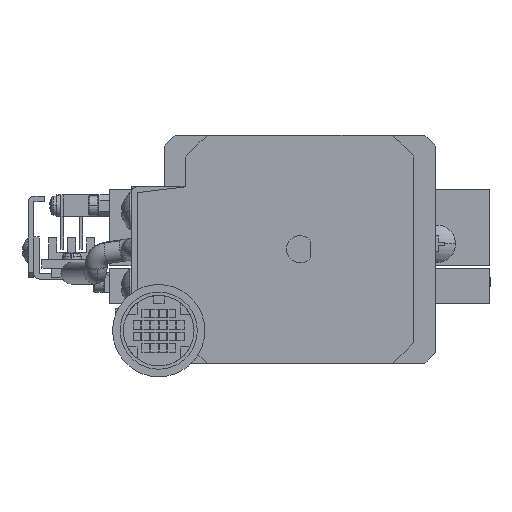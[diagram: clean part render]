
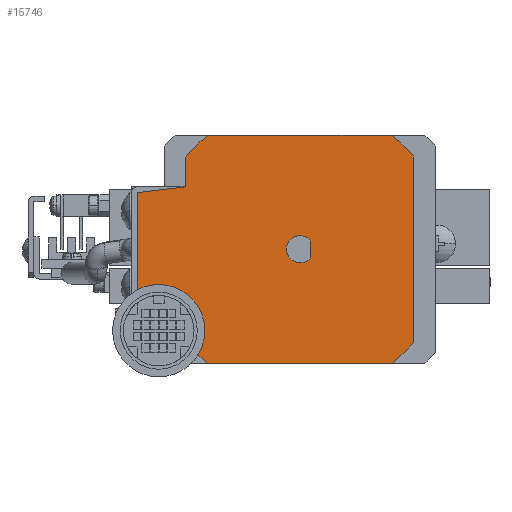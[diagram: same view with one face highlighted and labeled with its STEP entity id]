
A CAD part, left-side view. The second image highlights one B-rep face of the part: STEP entity #15746.
In plain terms, the highlighted planar face has unit normal (-1, 0, 0).
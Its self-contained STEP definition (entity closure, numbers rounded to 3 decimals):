
#403 = CIRCLE ( 'NONE', #19351, 2.5 ) ;
#458 = DIRECTION ( 'NONE',  ( 0., 0., 1. ) ) ;
#656 = LINE ( 'NONE', #59601, #2172 ) ;
#885 = CARTESIAN_POINT ( 'NONE',  ( -359.53, 24.275, -257.221 ) ) ;
#1308 = CARTESIAN_POINT ( 'NONE',  ( -359.53, 55.836, -248.272 ) ) ;
#1513 = DIRECTION ( 'NONE',  ( 0., -0.993, 0.122 ) ) ;
#2172 = VECTOR ( 'NONE', #26657, 1000. ) ;
#3191 = ORIENTED_EDGE ( 'NONE', *, *, #29141, .F. ) ;
#3630 = EDGE_LOOP ( 'NONE', ( #3191, #56954, #15829, #29286, #24278, #21026, #47286, #24365, #50510, #10615, #17761, #46331, #59002, #27614 ) ) ;
#4308 = EDGE_CURVE ( 'NONE', #32531, #41101, #11801, .T. ) ;
#4535 = EDGE_CURVE ( 'NONE', #46892, #35064, #31139, .T. ) ;
#4730 = EDGE_CURVE ( 'NONE', #41101, #25267, #30356, .T. ) ;
#4934 = CARTESIAN_POINT ( 'NONE',  ( -359.53, 43.246, -237.721 ) ) ;
#7147 = EDGE_CURVE ( 'NONE', #12185, #56303, #10764, .T. ) ;
#7270 = CARTESIAN_POINT ( 'NONE',  ( -359.53, 55.775, -248.768 ) ) ;
#8744 = LINE ( 'NONE', #50653, #33351 ) ;
#9823 = DIRECTION ( 'NONE',  ( 0., -1., 0. ) ) ;
#10352 = DIRECTION ( 'NONE',  ( 0., 0.122, -0.993 ) ) ;
#10403 = CARTESIAN_POINT ( 'NONE',  ( -359.53, 47.275, -241.75 ) ) ;
#10615 = ORIENTED_EDGE ( 'NONE', *, *, #30981, .F. ) ;
#10764 = LINE ( 'NONE', #21269, #21243 ) ;
#10963 = VECTOR ( 'NONE', #1513, 1000. ) ;
#11071 = CARTESIAN_POINT ( 'NONE',  ( -359.53, 80.327, -308.272 ) ) ;
#11801 = CIRCLE ( 'NONE', #58754, 0.5 ) ;
#12185 = VERTEX_POINT ( 'NONE', #52330 ) ;
#12207 = LINE ( 'NONE', #57139, #51699 ) ;
#13532 = AXIS2_PLACEMENT_3D ( 'NONE', #22005, #27212, #50932 ) ;
#14241 = EDGE_CURVE ( 'NONE', #35064, #22659, #12207, .T. ) ;
#14662 = VERTEX_POINT ( 'NONE', #43438 ) ;
#15177 = CIRCLE ( 'NONE', #13532, 27. ) ;
#15746 = ADVANCED_FACE ( 'NONE', ( #52281, #55321 ), #16494, .F. ) ;
#15829 = ORIENTED_EDGE ( 'NONE', *, *, #61469, .F. ) ;
#16494 = PLANE ( 'NONE',  #39867 ) ;
#16698 = DIRECTION ( 'NONE',  ( 1., 0., 0. ) ) ;
#17124 = EDGE_LOOP ( 'NONE', ( #42872, #59129 ) ) ;
#17333 = DIRECTION ( 'NONE',  ( 0., -0.778, -0.629 ) ) ;
#17761 = ORIENTED_EDGE ( 'NONE', *, *, #24512, .F. ) ;
#18823 = EDGE_CURVE ( 'NONE', #53471, #55875, #8744, .T. ) ;
#19351 = AXIS2_PLACEMENT_3D ( 'NONE', #22885, #28502, #57013 ) ;
#21026 = ORIENTED_EDGE ( 'NONE', *, *, #50176, .F. ) ;
#21243 = VECTOR ( 'NONE', #44773, 1000. ) ;
#21269 = CARTESIAN_POINT ( 'NONE',  ( -359.53, 24.275, -260.221 ) ) ;
#22005 = CARTESIAN_POINT ( 'NONE',  ( -359.53, 26.275, -258.721 ) ) ;
#22034 = AXIS2_PLACEMENT_3D ( 'NONE', #24129, #38834, #10352 ) ;
#22162 = DIRECTION ( 'NONE',  ( 0., 1., 0. ) ) ;
#22659 = VERTEX_POINT ( 'NONE', #54365 ) ;
#22885 = CARTESIAN_POINT ( 'NONE',  ( -359.53, 26.275, -258.721 ) ) ;
#23375 = VECTOR ( 'NONE', #56577, 1000. ) ;
#23445 = VERTEX_POINT ( 'NONE', #34882 ) ;
#23724 = DIRECTION ( 'NONE',  ( 0., 0.778, 0.629 ) ) ;
#24129 = CARTESIAN_POINT ( 'NONE',  ( -359.53, 55.775, -268.673 ) ) ;
#24278 = ORIENTED_EDGE ( 'NONE', *, *, #4535, .F. ) ;
#24365 = ORIENTED_EDGE ( 'NONE', *, *, #4308, .F. ) ;
#24464 = CARTESIAN_POINT ( 'NONE',  ( -359.53, 55.836, -269.17 ) ) ;
#24512 = EDGE_CURVE ( 'NONE', #23445, #35491, #59202, .T. ) ;
#25042 = LINE ( 'NONE', #43057, #39918 ) ;
#25267 = VERTEX_POINT ( 'NONE', #42949 ) ;
#26280 = CIRCLE ( 'NONE', #46890, 27. ) ;
#26657 = DIRECTION ( 'NONE',  ( 0., 0., 1. ) ) ;
#27212 = DIRECTION ( 'NONE',  ( 1., 0., 0. ) ) ;
#27614 = ORIENTED_EDGE ( 'NONE', *, *, #18823, .F. ) ;
#27899 = DIRECTION ( 'NONE',  ( 1., 0., 0. ) ) ;
#28220 = DIRECTION ( 'NONE',  ( 0., 0.629, -0.778 ) ) ;
#28502 = DIRECTION ( 'NONE',  ( 1., 0., 0. ) ) ;
#28728 = CARTESIAN_POINT ( 'NONE',  ( -359.53, 26.275, -258.721 ) ) ;
#28740 = VECTOR ( 'NONE', #458, 1000. ) ;
#29141 = EDGE_CURVE ( 'NONE', #37184, #53471, #26280, .T. ) ;
#29193 = CARTESIAN_POINT ( 'NONE',  ( -359.53, 9.305, -279.721 ) ) ;
#29286 = ORIENTED_EDGE ( 'NONE', *, *, #14241, .F. ) ;
#29890 = EDGE_CURVE ( 'NONE', #55875, #14662, #49988, .T. ) ;
#30356 = LINE ( 'NONE', #1308, #10963 ) ;
#30657 = DIRECTION ( 'NONE',  ( 0., 1., 0. ) ) ;
#30981 = EDGE_CURVE ( 'NONE', #35491, #46240, #43940, .T. ) ;
#31139 = CIRCLE ( 'NONE', #39306, 27. ) ;
#32531 = VERTEX_POINT ( 'NONE', #61590 ) ;
#32674 = VECTOR ( 'NONE', #54437, 1000. ) ;
#33143 = AXIS2_PLACEMENT_3D ( 'NONE', #56740, #57367, #28220 ) ;
#33351 = VECTOR ( 'NONE', #22162, 1000. ) ;
#33911 = EDGE_CURVE ( 'NONE', #46240, #32531, #45843, .T. ) ;
#34882 = CARTESIAN_POINT ( 'NONE',  ( -359.53, 47.275, -270.221 ) ) ;
#35064 = VERTEX_POINT ( 'NONE', #4934 ) ;
#35491 = VERTEX_POINT ( 'NONE', #24464 ) ;
#37129 = CARTESIAN_POINT ( 'NONE',  ( -359.53, 56.275, -268.673 ) ) ;
#37184 = VERTEX_POINT ( 'NONE', #52748 ) ;
#38834 = DIRECTION ( 'NONE',  ( 1., 0., 0. ) ) ;
#39159 = CARTESIAN_POINT ( 'NONE',  ( -359.53, 26.275, -258.721 ) ) ;
#39306 = AXIS2_PLACEMENT_3D ( 'NONE', #28728, #27899, #23724 ) ;
#39867 = AXIS2_PLACEMENT_3D ( 'NONE', #11071, #16698, #54609 ) ;
#39918 = VECTOR ( 'NONE', #47230, 1000. ) ;
#40852 = CARTESIAN_POINT ( 'NONE',  ( -359.53, 55.836, -248.272 ) ) ;
#41101 = VERTEX_POINT ( 'NONE', #40852 ) ;
#42872 = ORIENTED_EDGE ( 'NONE', *, *, #50947, .T. ) ;
#42949 = CARTESIAN_POINT ( 'NONE',  ( -359.53, 47.275, -247.221 ) ) ;
#43057 = CARTESIAN_POINT ( 'NONE',  ( -359.53, 5.275, -241.75 ) ) ;
#43438 = CARTESIAN_POINT ( 'NONE',  ( -359.53, 47.275, -275.691 ) ) ;
#43940 = CIRCLE ( 'NONE', #22034, 0.5 ) ;
#43971 = DIRECTION ( 'NONE',  ( 1., 0., 0. ) ) ;
#44773 = DIRECTION ( 'NONE',  ( 0., 0., 1. ) ) ;
#45843 = LINE ( 'NONE', #48012, #28740 ) ;
#46240 = VERTEX_POINT ( 'NONE', #37129 ) ;
#46331 = ORIENTED_EDGE ( 'NONE', *, *, #54330, .F. ) ;
#46370 = CARTESIAN_POINT ( 'NONE',  ( -359.53, 5.275, -241.75 ) ) ;
#46743 = CARTESIAN_POINT ( 'NONE',  ( -359.53, 47.275, -270.221 ) ) ;
#46890 = AXIS2_PLACEMENT_3D ( 'NONE', #39159, #43971, #17333 ) ;
#46892 = VERTEX_POINT ( 'NONE', #10403 ) ;
#47230 = DIRECTION ( 'NONE',  ( 0., 0., -1. ) ) ;
#47286 = ORIENTED_EDGE ( 'NONE', *, *, #4730, .F. ) ;
#48012 = CARTESIAN_POINT ( 'NONE',  ( -359.53, 56.275, -268.673 ) ) ;
#49774 = DIRECTION ( 'NONE',  ( 1., 0., 0. ) ) ;
#49988 = CIRCLE ( 'NONE', #33143, 27. ) ;
#50176 = EDGE_CURVE ( 'NONE', #25267, #46892, #61009, .T. ) ;
#50510 = ORIENTED_EDGE ( 'NONE', *, *, #33911, .F. ) ;
#50653 = CARTESIAN_POINT ( 'NONE',  ( -359.53, 9.305, -279.721 ) ) ;
#50932 = DIRECTION ( 'NONE',  ( 0., -0.629, 0.778 ) ) ;
#50947 = EDGE_CURVE ( 'NONE', #12185, #56303, #403, .T. ) ;
#51699 = VECTOR ( 'NONE', #9823, 1000. ) ;
#52281 = FACE_OUTER_BOUND ( 'NONE', #3630, .T. ) ;
#52330 = CARTESIAN_POINT ( 'NONE',  ( -359.53, 24.275, -260.221 ) ) ;
#52748 = CARTESIAN_POINT ( 'NONE',  ( -359.53, 5.275, -275.691 ) ) ;
#53471 = VERTEX_POINT ( 'NONE', #29193 ) ;
#54330 = EDGE_CURVE ( 'NONE', #14662, #23445, #656, .T. ) ;
#54365 = CARTESIAN_POINT ( 'NONE',  ( -359.53, 9.305, -237.721 ) ) ;
#54437 = DIRECTION ( 'NONE',  ( 0., 0., 1. ) ) ;
#54609 = DIRECTION ( 'NONE',  ( 0., 0., 1. ) ) ;
#54645 = CARTESIAN_POINT ( 'NONE',  ( -359.53, 47.275, -247.221 ) ) ;
#55321 = FACE_BOUND ( 'NONE', #17124, .T. ) ;
#55875 = VERTEX_POINT ( 'NONE', #58564 ) ;
#56303 = VERTEX_POINT ( 'NONE', #885 ) ;
#56577 = DIRECTION ( 'NONE',  ( 0., 0.993, 0.122 ) ) ;
#56740 = CARTESIAN_POINT ( 'NONE',  ( -359.53, 26.275, -258.721 ) ) ;
#56954 = ORIENTED_EDGE ( 'NONE', *, *, #59571, .F. ) ;
#57013 = DIRECTION ( 'NONE',  ( 0., -0.8, -0.6 ) ) ;
#57139 = CARTESIAN_POINT ( 'NONE',  ( -359.53, 43.246, -237.721 ) ) ;
#57367 = DIRECTION ( 'NONE',  ( 1., 0., 0. ) ) ;
#58564 = CARTESIAN_POINT ( 'NONE',  ( -359.53, 43.246, -279.721 ) ) ;
#58754 = AXIS2_PLACEMENT_3D ( 'NONE', #7270, #49774, #30657 ) ;
#59002 = ORIENTED_EDGE ( 'NONE', *, *, #29890, .F. ) ;
#59129 = ORIENTED_EDGE ( 'NONE', *, *, #7147, .F. ) ;
#59202 = LINE ( 'NONE', #46743, #23375 ) ;
#59571 = EDGE_CURVE ( 'NONE', #60149, #37184, #25042, .T. ) ;
#59601 = CARTESIAN_POINT ( 'NONE',  ( -359.53, 47.275, -275.691 ) ) ;
#60149 = VERTEX_POINT ( 'NONE', #46370 ) ;
#61009 = LINE ( 'NONE', #54645, #32674 ) ;
#61469 = EDGE_CURVE ( 'NONE', #22659, #60149, #15177, .T. ) ;
#61590 = CARTESIAN_POINT ( 'NONE',  ( -359.53, 56.275, -248.768 ) ) ;
